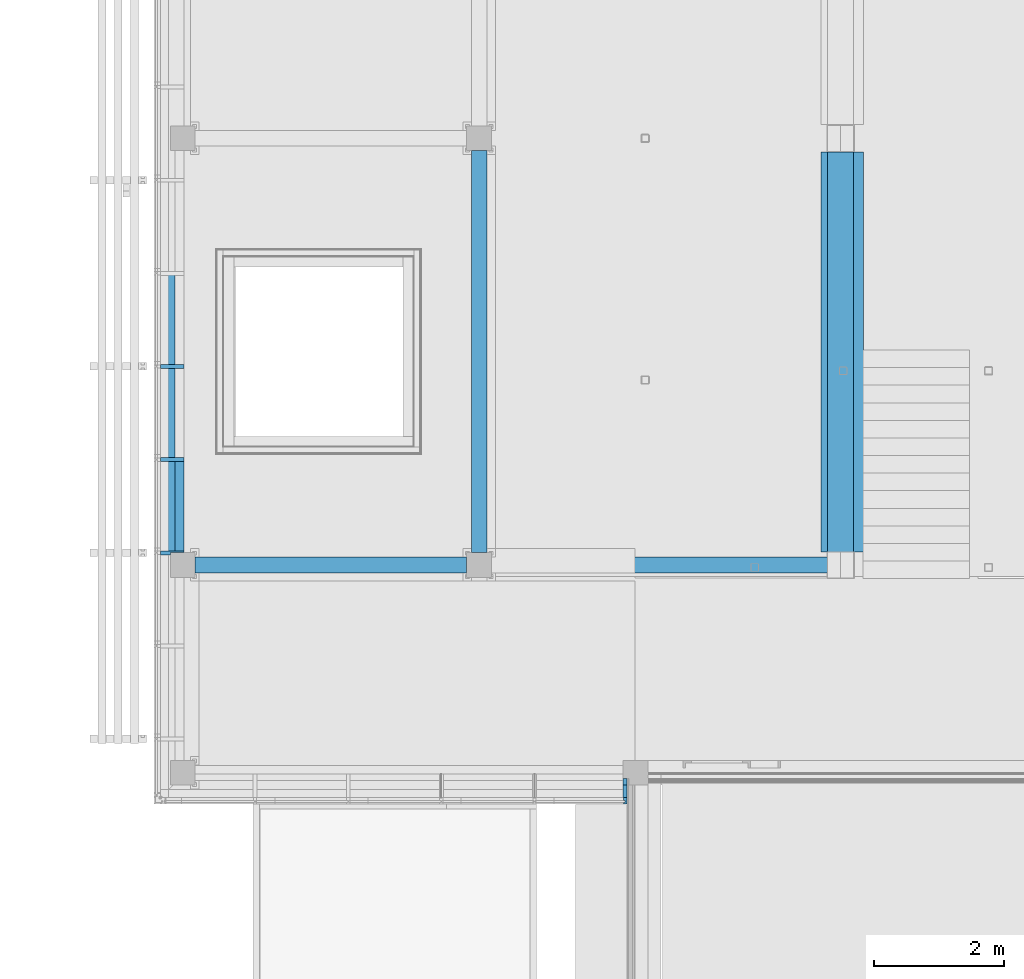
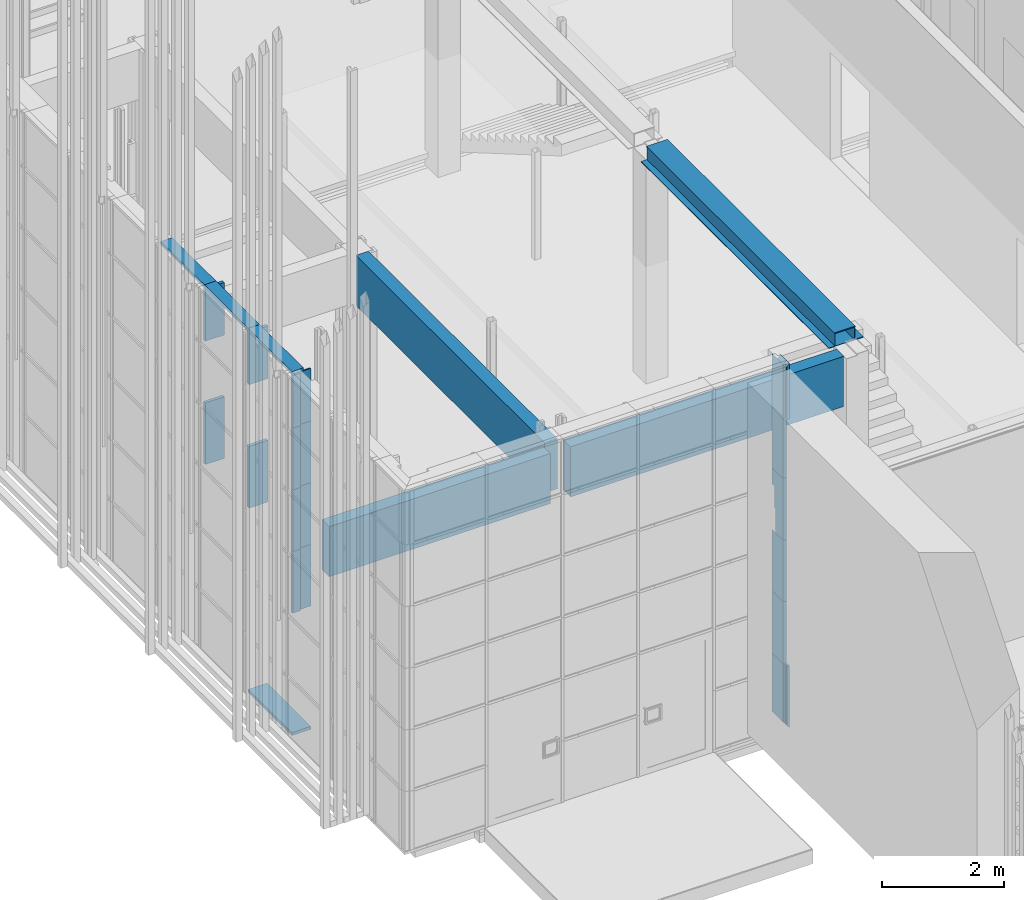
# One storey, part 70 of 260: 20 members, 4 beams, 2 elements without a shape of their own.
"""IFC2X3 building model written with IfcOpenShell, lengths in millimetres."""

from ifc_helpers import new_model, entity, si_unit, converted_unit, derived_unit, money_unit, direction, frame, origin_with_axes, place, context, subcontext, project, spatial, faceted_brep, material, type_object, element, aggregate, save


model = new_model("IFC2X3")

# Units and contexts
model_context = context("Model", 3, precision=0.01, world=origin_with_axes(), true_north=direction((0.0, 1.0)))
body_context = subcontext(model_context, "Body", "Model", "MODEL_VIEW")
ifc_project = project(units=[si_unit("LENGTHUNIT", "METRE", prefix="MILLI"), si_unit("AREAUNIT", "SQUARE_METRE"), si_unit("VOLUMEUNIT", "CUBIC_METRE"), converted_unit("PLANEANGLEUNIT", "DEGREE", entity("IfcPlaneAngleMeasure", 0.0174532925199), si_unit("PLANEANGLEUNIT", "RADIAN"), dimensions=[0, 0, 0, 0, 0, 0, 0]), money_unit("EUR"), converted_unit("TIMEUNIT", "Year", entity("IfcTimeMeasure", 31556926.0), si_unit("TIMEUNIT", "SECOND"), dimensions=[0, 0, 1, 0, 0, 0, 0]), si_unit("MASSUNIT", "GRAM", prefix="KILO"), si_unit("THERMODYNAMICTEMPERATUREUNIT", "DEGREE_CELSIUS"), si_unit("LUMINOUSINTENSITYUNIT", "LUMEN"), si_unit("ENERGYUNIT", "JOULE", prefix="MEGA"), derived_unit("THERMALCONDUCTANCEUNIT", [(si_unit("POWERUNIT", "WATT"), 1), (si_unit("LENGTHUNIT", "METRE"), -1), (si_unit("THERMODYNAMICTEMPERATUREUNIT", "KELVIN"), -1)]), derived_unit("SPECIFICHEATCAPACITYUNIT", [(si_unit("ENERGYUNIT", "JOULE"), 1), (si_unit("MASSUNIT", "GRAM", prefix="KILO"), -1), (si_unit("THERMODYNAMICTEMPERATUREUNIT", "KELVIN"), -1)]), derived_unit("MASSDENSITYUNIT", [(si_unit("MASSUNIT", "GRAM", prefix="KILO"), 1), (si_unit("VOLUMEUNIT", "CUBIC_METRE"), -1)])], contexts=[model_context])

# Site, building, storey
site_placement = place(None, origin_with_axes())
site = spatial("IfcSite", under=ifc_project, at=site_placement, Name="Kolde pst 67a", CompositionType="ELEMENT")
building_placement = place(site_placement, origin_with_axes())
building = spatial("IfcBuilding", under=site, at=building_placement, Name="Riigigümnaasium", CompositionType="ELEMENT")
storey_placement = place(building_placement, origin_with_axes())
storey = spatial("IfcBuildingStorey", under=building, at=storey_placement, Name="1. korrus", CompositionType="ELEMENT", Elevation=0.0)

# Curtain wall, members
curtain_wall_type = type_object("IfcCurtainWallType", Name="Curtain Wall Type", PredefinedType="NOTDEFINED")
curtain_wall_1_placement = place(storey_placement, frame((47829.9854655, 8727.77020058, -0.000749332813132), z_axis=(0.0, 0.0, 1.0), x_axis=(1.0, 0.0, 0.0)))
curtain_wall_1 = element("IfcCurtainWall", 1, at=curtain_wall_1_placement, inside=storey, type_object=curtain_wall_type, Name="KLAASFASSAAD")
ifc_material_1 = material(Name="_METALL - alumiinium")
member_type_1 = type_object("IfcMemberType", Name="Boundary Frame 50 x 100", PredefinedType="MEMBER")
member_1_placement = place(curtain_wall_1_placement, frame((7219.88143544, -1457.7720558, 1230.00074933), z_axis=(0.0, 0.0, -1.0), x_axis=(-1.0, 2.70881141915e-07, 0.0)))
member_1 = element("IfcMember", 2, at=member_1_placement, type_object=member_type_1, material=ifc_material_1, Name="RF RAAM SERV-552", ObjectType="MEMBER", context=body_context, shape_type="Brep", body=[
    faceted_brep([(30.0000044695, 16.4999918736, 1200.00002976), (50.0000044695, 16.4999864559, 1180.00002976), (50.0000162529, 59.9999864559, 1180.00002976), (1.62528692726e-05, 60.0, 1230.00002976), (-1.08352509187e-05, -40.0, 1230.00002976), (49.9999891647, -40.0000135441, 1180.00002976), (49.9999955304, -16.5000135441, 1180.00002976), (29.9999955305, -16.5000081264, 1200.00002976), (30.0000044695, 16.4999918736, 0.0), (50.0000044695, 16.4999864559, 0.0), (50.0000162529, 59.9999864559, 0.0), (1.62528692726e-05, 60.0, 0.0), (-1.08352509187e-05, -40.0, 0.0), (49.9999891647, -40.0000135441, 0.0), (49.9999955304, -16.5000135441, 0.0), (29.9999955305, -16.5000081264, 0.0)], [[[0, 1, 2, 3, 4, 5, 6, 7]], [[0, 8, 9, 1]], [[9, 10, 2, 1]], [[10, 11, 3, 2]], [[11, 12, 4, 3]], [[12, 13, 5, 4]], [[6, 5, 13, 14]], [[14, 15, 7, 6]], [[7, 15, 8, 0]], [[8, 15, 14, 13, 12, 11, 10, 9]]]),
])
member_2_placement = place(curtain_wall_1_placement, frame((7219.88154525, -1457.7720558, 7259.99961897), z_axis=(-9.89276855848e-08, 0.0, -1.0), x_axis=(-1.0, 2.70881141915e-07, 9.89276855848e-08)))
member_2 = element("IfcMember", 3, at=member_2_placement, type_object=member_type_1, material=ifc_material_1, Name="RF RAAM SERV-547", ObjectType="MEMBER", context=body_context, shape_type="Brep", body=[
    faceted_brep([(29.9998946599, 16.4999918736, 1109.99887508), (49.9998946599, 16.4999864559, 1109.99887706), (49.9999064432, 59.9999864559, 1109.99887706), (-9.35567499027e-05, 60.0, 1109.99887212), (-0.000120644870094, -40.0, 1109.99887212), (49.9998793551, -40.0000135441, 1109.99887706), (49.9998857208, -16.5000135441, 1109.99887706), (29.9998857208, -16.5000081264, 1109.99887508), (30.0000015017, 16.4999918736, 30.0000029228), (49.9999995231, 16.4999864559, 50.0000048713), (50.0000113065, 59.9999864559, 50.0000048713), (1.62528692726e-05, 60.0, 0.0), (-1.08352509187e-05, -40.0, 0.0), (49.9999842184, -40.0000135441, 50.0000048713), (49.9999905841, -16.5000135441, 50.0000048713), (29.9999925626, -16.5000081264, 30.0000029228)], [[[0, 1, 2, 3, 4, 5, 6, 7]], [[0, 8, 9, 1]], [[9, 10, 2, 1]], [[2, 10, 11, 3]], [[3, 11, 12, 4]], [[4, 12, 13, 5]], [[6, 5, 13, 14]], [[14, 15, 7, 6]], [[7, 15, 8, 0]], [[8, 15, 14, 13, 12, 11, 10, 9]]]),
])
aggregate(curtain_wall_1, [member_1, member_2])

curtain_wall_2_placement = place(storey_placement, frame((47889.9854796, 7778.28071079, -0.000681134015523), z_axis=(0.0, 0.0, 1.0), x_axis=(1.0, 0.0, 0.0)))
curtain_wall_2 = element("IfcCurtainWall", 4, at=curtain_wall_2_placement, inside=storey, type_object=curtain_wall_type, Name="Klaasfassaadi puitkarkass")
ifc_material_2 = material(Name="_KANDETARIND - liimpuit vastavalt EK osale")
member_type_2 = type_object("IfcMemberType", Name="Boundary Frame 60 x 360", PredefinedType="MEMBER")
member_3_placement = place(curtain_wall_2_placement, frame((-3.55545637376e-06, 3308.28063511, 0.0), z_axis=(-1.07471824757e-09, 1.0, 0.0), x_axis=(0.0, 0.0, 1.0)))
member_3 = element("IfcMember", 5, at=member_3_placement, type_object=member_type_2, material=ifc_material_2, Name="RF RAAM SERV-883", ObjectType="MEMBER", context=body_context, shape_type="Brep", body=[
    faceted_brep([(60.0, 150.000041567, -1.61207935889e-07), (60.0, 150.00004157, 3.40062752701), (60.0, 360.000000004, 3.40062730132), (60.0, 360.000001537, 1429.99999961), (60.0, 1.53684709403e-06, 1430.0), (60.0, 0.0, 0.0), (0.000681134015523, 150.000041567, -1.61207935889e-07), (0.000681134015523, 150.00004157, 3.40062752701), (0.000681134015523, 360.000000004, 3.40062730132), (0.0, 360.000001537, 1429.99999961), (0.0, 1.53684709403e-06, 1430.0), (0.0, 0.0, 0.0)], [[[0, 1, 2, 3, 4, 5]], [[1, 0, 6, 7]], [[8, 2, 1, 7]], [[2, 8, 9, 3]], [[4, 3, 9, 10]], [[11, 5, 4, 10]], [[6, 0, 5, 11]], [[7, 6, 11, 10, 9, 8]]]),
])
member_4_placement = place(curtain_wall_2_placement, frame((7159.88154568, -448.282510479, 1230.00068113), z_axis=(0.0, 0.0, -1.0), x_axis=(-1.0, 2.61927579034e-07, 0.0)))
member_4 = element("IfcMember", 6, at=member_4_placement, type_object=member_type_2, material=ifc_material_2, Name="RF RAAM SERV-879", ObjectType="MEMBER", context=body_context, shape_type="Brep", body=[
    faceted_brep([(4.97667116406e-05, 190.001799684, 1230.0), (4.97667116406e-05, 190.001799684, 0.0), (0.0, 0.0, 0.0), (0.0, 0.0, 1230.00012887), (59.8868039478, 190.001783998, 0.0), (59.8868039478, 190.001783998, 1170.11337448), (59.886848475, 359.999984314, 0.0), (60.0000942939, 359.999984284, 0.0), (60.0, -1.57156545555e-05, 0.0), (60.0, -1.57156545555e-05, 1170.00012866), (60.0000942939, 359.999984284, 1170.00012866), (59.886848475, 359.999984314, 1170.11337448)], [[[0, 1, 2, 3]], [[4, 1, 0, 5]], [[4, 6, 7, 8, 2, 1]], [[2, 8, 9, 3]], [[5, 0, 3, 9, 10, 11]], [[11, 6, 4, 5]], [[6, 11, 10, 7]], [[8, 7, 10, 9]]]),
])
member_5_placement = place(curtain_wall_2_placement, frame((7159.88154568, -448.282510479, 2460.00068113), z_axis=(0.0, 0.0, -1.0), x_axis=(-1.0, 2.61927579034e-07, 0.0)))
member_5 = element("IfcMember", 7, at=member_5_placement, type_object=member_type_2, material=ifc_material_2, Name="RF RAAM SERV-878", ObjectType="MEMBER", context=body_context, shape_type="Brep", body=[
    faceted_brep([(4.97667116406e-05, 190.001799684, 1230.0), (4.97667116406e-05, 190.001799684, 0.0), (0.0, 0.0, 0.0), (0.0, 0.0, 1230.0), (59.8868039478, 190.001783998, 0.0), (59.8868039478, 190.001783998, 1230.0), (59.886848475, 359.999984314, 0.0), (60.0000942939, 359.999984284, 0.0), (60.0, -1.57156545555e-05, 0.0), (60.0, -1.57156545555e-05, 1230.0), (60.0000942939, 359.999984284, 1230.0), (59.886848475, 359.999984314, 1230.0)], [[[0, 1, 2, 3]], [[4, 1, 0, 5]], [[4, 6, 7, 8, 2, 1]], [[2, 8, 9, 3]], [[5, 0, 3, 9, 10, 11]], [[11, 6, 4, 5]], [[6, 11, 10, 7]], [[8, 7, 10, 9]]]),
])
member_6_placement = place(curtain_wall_2_placement, frame((7159.88154568, -448.282510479, 3690.00068113), z_axis=(0.0, 0.0, -1.0), x_axis=(-1.0, 2.61927579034e-07, 0.0)))
member_6 = element("IfcMember", 8, at=member_6_placement, type_object=member_type_2, material=ifc_material_2, Name="RF RAAM SERV-877", ObjectType="MEMBER", context=body_context, shape_type="Brep", body=[
    faceted_brep([(4.97667116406e-05, 190.001799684, 1230.0), (4.97667116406e-05, 190.001799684, 0.0), (0.0, 0.0, 0.0), (0.0, 0.0, 1230.0), (59.8868039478, 190.001783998, 0.0), (59.8868039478, 190.001783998, 1230.0), (59.886848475, 359.999984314, 0.0), (60.0000942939, 359.999984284, 0.0), (60.0, -1.57156545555e-05, 0.0), (60.0, -1.57156545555e-05, 1230.0), (60.0000942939, 359.999984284, 1230.0), (59.886848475, 359.999984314, 1230.0)], [[[0, 1, 2, 3]], [[4, 1, 0, 5]], [[4, 6, 7, 8, 2, 1]], [[3, 2, 8, 9]], [[5, 0, 3, 9, 10, 11]], [[11, 6, 4, 5]], [[6, 11, 10, 7]], [[9, 8, 7, 10]]]),
])
member_7_placement = place(curtain_wall_2_placement, frame((7159.88154568, -448.282510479, 4920.00068113), z_axis=(0.0, 0.0, -1.0), x_axis=(-1.0, 2.61927579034e-07, 0.0)))
member_7 = element("IfcMember", 9, at=member_7_placement, type_object=member_type_2, material=ifc_material_2, Name="RF RAAM SERV-876", ObjectType="MEMBER", context=body_context, shape_type="Brep", body=[
    faceted_brep([(4.97667116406e-05, 190.001799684, 1230.0), (4.97667116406e-05, 190.001799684, 700.0), (7.59979386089e-05, 290.148686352, 700.0), (7.59979386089e-05, 290.148686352, 470.0), (4.97667116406e-05, 190.001799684, 470.0), (4.97667116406e-05, 190.001799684, 0.0), (0.0, 0.0, 0.0), (0.0, 0.0, 1230.0), (59.8868039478, 190.001783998, 1230.0), (59.8868039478, 190.001783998, 700.0), (59.8868301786, 290.147253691, 700.0), (59.8868301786, 290.147253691, 750.0), (60.0000759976, 290.147250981, 750.0), (60.0000759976, 290.147250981, 470.0), (59.8868301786, 290.147253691, 470.0), (59.8868039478, 190.001783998, 470.0), (59.8868039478, 190.001783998, 0.0), (59.886848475, 359.999984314, 0.0), (60.0000942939, 359.999984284, 0.0), (60.0, -1.57156545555e-05, 0.0), (60.0, -1.57156545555e-05, 1230.0), (60.0000654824, 250.001783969, 1230.0), (59.8868196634, 250.001783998, 1230.0), (59.8868196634, 250.001783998, 750.0), (60.0000654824, 250.001783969, 750.0), (60.0000942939, 359.999984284, 320.0), (60.0000759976, 290.147250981, 320.0), (60.0000759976, 290.147250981, 323.0), (60.0000759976, 290.147250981, 420.0), (60.0000759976, 290.147250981, 450.0), (59.8868301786, 290.147253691, 450.0), (59.8868301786, 290.147253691, 320.0), (59.886848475, 359.999984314, 320.0), (59.8868301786, 290.147253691, 420.0), (59.8868301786, 290.147253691, 323.0)], [[[0, 1, 2, 3, 4, 5, 6, 7]], [[1, 0, 8, 9]], [[10, 2, 1, 9]], [[10, 11, 12, 13, 14, 3, 2]], [[15, 4, 3, 14]], [[15, 16, 5, 4]], [[5, 16, 17, 18, 19, 6]], [[6, 19, 20, 7]], [[8, 0, 7, 20, 21, 22]], [[11, 10, 9, 8, 22, 23]], [[11, 23, 24, 12]], [[13, 12, 24, 21, 20, 19, 18, 25, 26, 27, 28, 29]], [[29, 30, 14, 13]], [[31, 32, 17, 16, 15, 14, 30, 33, 34]], [[18, 17, 32, 25]], [[23, 22, 21, 24]], [[25, 32, 31, 26]], [[26, 31, 34, 27]], [[27, 34, 33, 28]], [[28, 33, 30, 29]]]),
])
member_8_placement = place(curtain_wall_2_placement, frame((7159.88154568, -448.282510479, 6150.00068113), z_axis=(0.0, 0.0, -1.0), x_axis=(-1.0, 2.61927579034e-07, 0.0)))
member_8 = element("IfcMember", 10, at=member_8_placement, type_object=member_type_2, material=ifc_material_2, Name="RF RAAM SERV-875", ObjectType="MEMBER", context=body_context, shape_type="Brep", body=[
    faceted_brep([(4.97667116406e-05, 190.001799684, 1230.0), (4.97667116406e-05, 190.001799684, 0.0), (0.0, 0.0, 0.0), (0.0, 0.0, 1230.0), (59.8868039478, 190.001783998, 0.0), (59.8868039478, 190.001783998, 1230.0), (59.886848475, 359.999984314, 0.0), (60.0000942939, 359.999984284, 0.0), (60.0, -1.57156545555e-05, 0.0), (60.0, -1.57156545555e-05, 1230.0), (60.0000942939, 359.999984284, 1230.0), (59.886848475, 359.999984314, 1230.0)], [[[0, 1, 2, 3]], [[4, 1, 0, 5]], [[4, 6, 7, 8, 2, 1]], [[2, 8, 9, 3]], [[5, 0, 3, 9, 10, 11]], [[11, 6, 4, 5]], [[6, 11, 10, 7]], [[8, 7, 10, 9]]]),
])
member_9_placement = place(curtain_wall_2_placement, frame((7159.88157566, -448.282510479, 7259.99957922), z_axis=(-2.7009919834e-08, 0.0, -1.0), x_axis=(-1.0, 2.61927579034e-07, 2.7009919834e-08)))
member_9 = element("IfcMember", 11, at=member_9_placement, type_object=member_type_2, material=ifc_material_2, Name="RF RAAM SERV-874", ObjectType="MEMBER", context=body_context, shape_type="Brep", body=[
    faceted_brep([(1.97857090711e-05, 190.001799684, 1109.99957681), (4.97667116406e-05, 190.001799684, 0.0), (0.0, 0.0, 0.0), (-2.99810025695e-05, 0.0, 1109.99957681), (59.8868323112, 190.001783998, 59.8867850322), (59.8868039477, 190.001783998, 1109.99957842), (59.886850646, 260.001783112, 59.8916836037), (60.0000664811, 260.001783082, 59.9988997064), (59.9999983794, -1.57156545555e-05, 60.0000008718), (59.999970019, -1.57156545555e-05, 1109.99957843), (60.0000643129, 359.999984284, 1109.99957843), (59.8868484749, 359.999984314, 1109.99957842), (59.8868768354, 359.999984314, 59.9988997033), (59.8868506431, 260.001783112, 59.9988997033), (60.0000926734, 359.999984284, 59.9988997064)], [[[0, 1, 2, 3]], [[4, 1, 0, 5]], [[4, 6, 7, 8, 2, 1]], [[9, 3, 2, 8]], [[5, 0, 3, 9, 10, 11]], [[11, 12, 13, 6, 4, 5]], [[6, 13, 7]], [[8, 7, 14, 10, 9]], [[12, 11, 10, 14]], [[13, 12, 14, 7]]]),
])
member_10_placement = place(curtain_wall_2_placement, frame((-5.09230346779e-06, 4738.28063511, 7260.00002512), z_axis=(1.07471824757e-09, -1.0, 0.0), x_axis=(0.0, 0.0, -1.0)))
member_10 = element("IfcMember", 12, at=member_10_placement, type_object=member_type_2, material=ifc_material_2, Name="RF RAAM SERV-906", ObjectType="MEMBER", context=body_context, shape_type="Brep", body=[
    faceted_brep([(0.0, 150.000023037, 1430.00000016), (0.0, 150.000023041, 1426.59937247), (0.0, 219.999954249, 1426.59937255), (0.0, 219.999951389, 2.36438424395e-07), (0.0, 0.0, 0.0), (0.0, -1.53684709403e-06, 1430.0), (60.0, 150.000023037, 1430.00000016), (59.9993439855, 150.000023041, 1426.59937247), (59.9993439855, 219.999954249, 1426.59937255), (59.9993439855, 219.999951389, 2.36438424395e-07), (60.0, 0.0, 0.0), (60.0, -1.53684709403e-06, 1430.0)], [[[0, 1, 2, 3, 4, 5]], [[1, 0, 6, 7]], [[8, 2, 1, 7]], [[2, 8, 9, 3]], [[4, 3, 9, 10]], [[5, 4, 10, 11]], [[6, 0, 5, 11]], [[7, 6, 11, 10, 9, 8]]]),
])
member_11_placement = place(curtain_wall_2_placement, frame((-6.62914345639e-06, 6168.28063511, 7260.00002512), z_axis=(1.07471327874e-09, -1.0, 0.0), x_axis=(0.0, 0.0, -1.0)))
member_11 = element("IfcMember", 13, at=member_11_placement, type_object=member_type_2, material=ifc_material_2, Name="RF RAAM SERV-905", ObjectType="MEMBER", context=body_context, shape_type="Brep", body=[
    faceted_brep([(0.0, 219.999951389, 1430.00000024), (0.0, 219.999948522, 2.36436648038e-07), (0.0, 0.0, 0.0), (0.0, -1.5368399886e-06, 1430.0), (59.9993439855, 219.999948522, 2.36436648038e-07), (59.9993439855, 219.999951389, 1430.00000024), (60.0, 0.0, 0.0), (60.0, -1.5368399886e-06, 1430.0)], [[[0, 1, 2, 3]], [[4, 1, 0, 5]], [[1, 4, 6, 2]], [[2, 6, 7, 3]], [[5, 0, 3, 7]], [[4, 5, 7, 6]]]),
])
member_12_placement = place(curtain_wall_2_placement, frame((-8.165983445e-06, 7598.28063511, 7260.00002512), z_axis=(1.07471327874e-09, -1.0, 0.0), x_axis=(0.0, 0.0, -1.0)))
member_12 = element("IfcMember", 14, at=member_12_placement, type_object=member_type_2, material=ifc_material_2, Name="RF RAAM SERV-904", ObjectType="MEMBER", context=body_context, shape_type="Brep", body=[
    faceted_brep([(0.0, 219.999948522, 1430.00000024), (0.0, 219.999945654, 2.36436648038e-07), (0.0, 0.0, 0.0), (0.0, -1.5368399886e-06, 1430.0), (59.9993439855, 219.999945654, 2.36436648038e-07), (59.9993439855, 219.999948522, 1430.00000024), (60.0, 0.0, 0.0), (60.0, -1.5368399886e-06, 1430.0)], [[[0, 1, 2, 3]], [[4, 1, 0, 5]], [[1, 4, 6, 2]], [[2, 6, 7, 3]], [[5, 0, 3, 7]], [[4, 5, 7, 6]]]),
])
member_type_3 = type_object("IfcMemberType", Name="Mullion Frame 60 x 360", PredefinedType="MEMBER")
member_13_placement = place(curtain_wall_2_placement, frame((-3.55545637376e-06, 3308.28063511, 2460.00068113), z_axis=(0.0, 0.0, 1.0), x_axis=(1.07471576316e-09, -1.0, 0.0)))
member_13 = element("IfcMember", 15, at=member_13_placement, type_object=member_type_3, material=ifc_material_2, Name="RF RAAM VERT-457", ObjectType="MEMBER", context=body_context, shape_type="Brep", body=[
    faceted_brep([(30.0, 150.000041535, 1230.0), (-3.40062752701, 150.00004157, 1230.0), (-3.40062730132, 360.0, 1230.0), (-30.0, 360.0, 1230.0), (-30.0, 0.0, 1230.0), (30.0, 0.0, 1230.0), (30.0, 150.000041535, 0.0), (-3.40062752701, 150.00004157, 0.0), (-3.40062730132, 360.0, 0.0), (-30.0, 360.0, 0.0), (-30.0, 0.0, 0.0), (30.0, 0.0, 0.0)], [[[0, 1, 2, 3, 4, 5]], [[1, 0, 6, 7]], [[8, 2, 1, 7]], [[2, 8, 9, 3]], [[9, 10, 4, 3]], [[10, 11, 5, 4]], [[6, 0, 5, 11]], [[7, 6, 11, 10, 9, 8]]]),
])
member_14_placement = place(curtain_wall_2_placement, frame((-3.55545637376e-06, 3308.28063511, 3690.00068113), z_axis=(0.0, 0.0, 1.0), x_axis=(1.07471576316e-09, -1.0, 0.0)))
member_14 = element("IfcMember", 16, at=member_14_placement, type_object=member_type_3, material=ifc_material_2, Name="RF RAAM VERT-457", ObjectType="MEMBER", context=body_context, shape_type="Brep", body=[
    faceted_brep([(30.0, 150.000023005, 1230.0), (-3.40062752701, 150.000023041, 1230.0), (-3.40062730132, 360.0, 1230.0), (-30.0, 360.0, 1230.0), (-30.0, 0.0, 1230.0), (30.0, 0.0, 1230.0), (30.0, 150.000023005, 480.0), (30.0, 150.000041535, 0.0), (-3.40062752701, 150.00004157, 0.0), (-3.40062730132, 360.0, 480.0), (-3.40062730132, 360.0, 0.0), (-30.0, 360.0, 0.0), (-30.0, 0.0, 0.0), (30.0, 0.0, 0.0)], [[[0, 1, 2, 3, 4, 5]], [[1, 0, 6, 7, 8]], [[9, 2, 1, 8, 10]], [[2, 9, 10, 11, 3]], [[4, 3, 11, 12]], [[5, 4, 12, 13]], [[6, 0, 5, 13, 7]], [[10, 8, 7, 13, 12, 11]]]),
])
member_15_placement = place(curtain_wall_2_placement, frame((-3.55545637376e-06, 3308.28063511, 4920.00068113), z_axis=(0.0, 0.0, 1.0), x_axis=(1.07471576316e-09, -1.0, 0.0)))
member_15 = element("IfcMember", 17, at=member_15_placement, type_object=member_type_3, material=ifc_material_2, Name="RF RAAM VERT-457", ObjectType="MEMBER", context=body_context, shape_type="Brep", body=[
    faceted_brep([(30.0, 150.000023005, 1230.0), (-3.40062752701, 150.000023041, 1230.0), (-3.40062730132, 360.0, 1230.0), (-30.0, 360.0, 1230.0), (-30.0, 0.0, 1230.0), (30.0, 0.0, 1230.0), (30.0, 150.000023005, 0.0), (-3.40062752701, 150.000023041, 0.0), (-3.40062730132, 360.0, 0.0), (-30.0, 360.0, 0.0), (-30.0, 0.0, 0.0), (30.0, 0.0, 0.0)], [[[0, 1, 2, 3, 4, 5]], [[1, 0, 6, 7]], [[8, 2, 1, 7]], [[2, 8, 9, 3]], [[9, 10, 4, 3]], [[10, 11, 5, 4]], [[6, 0, 5, 11]], [[7, 6, 11, 10, 9, 8]]]),
])
member_16_placement = place(curtain_wall_2_placement, frame((-5.09230346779e-06, 4738.28063511, 3690.00068113), z_axis=(0.0, 0.0, 1.0), x_axis=(1.07471576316e-09, -1.0, 0.0)))
member_16 = element("IfcMember", 18, at=member_16_placement, type_object=member_type_3, material=ifc_material_2, Name="RF RAAM VERT-457", ObjectType="MEMBER", context=body_context, shape_type="Brep", body=[
    faceted_brep([(30.0, 0.0, 0.0), (30.0, 360.0, 0.0), (30.0, 360.0, 1230.0), (30.0, 0.0, 1230.0), (-30.0, 360.0, 0.0), (-30.0, 0.0, 0.0), (-30.0, 360.0, 1230.0), (-30.0, 0.0, 1230.0)], [[[0, 1, 2, 3]], [[4, 1, 0, 5]], [[1, 4, 6, 2]], [[3, 2, 6, 7]], [[5, 0, 3, 7]], [[4, 5, 7, 6]]]),
])
member_17_placement = place(curtain_wall_2_placement, frame((-6.62914345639e-06, 6168.28063511, 3690.00068113), z_axis=(0.0, 0.0, 1.0), x_axis=(1.07471327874e-09, -1.0, 0.0)))
member_17 = element("IfcMember", 19, at=member_17_placement, type_object=member_type_3, material=ifc_material_2, Name="RF RAAM VERT-457", ObjectType="MEMBER", context=body_context, shape_type="Brep", body=[
    faceted_brep([(30.0, 0.0, 0.0), (30.0, 360.0, 0.0), (30.0, 360.0, 1230.0), (30.0, 0.0, 1230.0), (-30.0, 360.0, 0.0), (-30.0, 0.0, 0.0), (-30.0, 360.0, 1230.0), (-30.0, 0.0, 1230.0)], [[[0, 1, 2, 3]], [[4, 1, 0, 5]], [[1, 4, 6, 2]], [[3, 2, 6, 7]], [[5, 0, 3, 7]], [[4, 5, 7, 6]]]),
])
member_18_placement = place(curtain_wall_2_placement, frame((-3.55545637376e-06, 3308.28063511, 6150.00068113), z_axis=(0.0, 0.0, 1.0), x_axis=(1.07471576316e-09, -1.0, 0.0)))
member_18 = element("IfcMember", 20, at=member_18_placement, type_object=member_type_3, material=ifc_material_2, Name="RF RAAM VERT-874", ObjectType="MEMBER", context=body_context, shape_type="Brep", body=[
    faceted_brep([(30.0, 150.000023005, 1049.99958618), (-3.40062752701, 150.000023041, 1049.99958618), (-3.40062730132, 360.0, 1049.99958427), (-30.0, 360.0, 1049.99958427), (-30.0, 0.0, 1049.99958755), (30.0, 0.0, 1049.99958755), (30.0, 150.000023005, 0.0), (-3.40062752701, 150.000023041, 0.0), (-3.40062730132, 360.0, 0.0), (-30.0, 360.0, 0.0), (-30.0, 0.0, 0.0), (30.0, 0.0, 0.0)], [[[0, 1, 2, 3, 4, 5]], [[1, 0, 6, 7]], [[8, 2, 1, 7]], [[2, 8, 9, 3]], [[3, 9, 10, 4]], [[4, 10, 11, 5]], [[6, 0, 5, 11]], [[7, 6, 11, 10, 9, 8]]]),
])
member_19_placement = place(curtain_wall_2_placement, frame((-5.09230346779e-06, 4738.28063511, 6150.00068113), z_axis=(0.0, 0.0, 1.0), x_axis=(1.07471576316e-09, -1.0, 0.0)))
member_19 = element("IfcMember", 21, at=member_19_placement, type_object=member_type_3, material=ifc_material_2, Name="RF RAAM VERT-875", ObjectType="MEMBER", context=body_context, shape_type="Brep", body=[
    faceted_brep([(30.0, 0.0, 0.0), (30.0, 360.0, 0.0), (30.0, 360.0, 1049.99958427), (30.0, 0.0, 1049.99958755), (-30.0, 360.0, 0.0), (-30.0, 0.0, 0.0), (-30.0, 360.0, 1049.99958427), (-30.0, 0.0, 1049.99958755)], [[[0, 1, 2, 3]], [[4, 1, 0, 5]], [[1, 4, 6, 2]], [[3, 2, 6, 7]], [[5, 0, 3, 7]], [[4, 5, 7, 6]]]),
])
member_20_placement = place(curtain_wall_2_placement, frame((-6.62914345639e-06, 6168.28063511, 6150.00068113), z_axis=(0.0, 0.0, 1.0), x_axis=(1.07471327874e-09, -1.0, 0.0)))
member_20 = element("IfcMember", 22, at=member_20_placement, type_object=member_type_3, material=ifc_material_2, Name="RF RAAM VERT-876", ObjectType="MEMBER", context=body_context, shape_type="Brep", body=[
    faceted_brep([(30.0, 0.0, 0.0), (30.0, 360.0, 0.0), (30.0, 360.0, 1049.99958427), (30.0, 0.0, 1049.99958755), (-30.0, 360.0, 0.0), (-30.0, 0.0, 0.0), (-30.0, 360.0, 1049.99958427), (-30.0, 0.0, 1049.99958755)], [[[0, 1, 2, 3]], [[4, 1, 0, 5]], [[1, 4, 6, 2]], [[3, 2, 6, 7]], [[5, 0, 3, 7]], [[4, 5, 7, 6]]]),
])
aggregate(curtain_wall_2, [member_13, member_14, member_15, member_16, member_17, member_3, member_4, member_5, member_6, member_7, member_8, member_9, member_18, member_10, member_19, member_11, member_20, member_12])

# Beams
beam_type_1 = type_object("IfcBeamType", Name="_KANDETARIND - liimpuit vastavalt EK osale 240 x 1000", PredefinedType="BEAM")
beam_1_placement = place(storey_placement, frame((52779.9941032, 17259.9999742, 3670.0), z_axis=(0.0, 0.0, 1.0), x_axis=(-1.0, -3.07976113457e-09, 0.0)))
element("IfcBeam", 23, at=beam_1_placement, inside=storey, type_object=beam_type_1, material=ifc_material_2, Name="Tala", ObjectType="BEAM", context=body_context, shape_type="Brep", body=[
    faceted_brep([(120.0, 0.0, 500.0), (120.0, 6170.03803351, 500.0), (-120.0, 6170.03803351, 500.0), (-120.0, 0.0, 500.0), (120.0, 0.0, -500.0), (120.0, 6170.03803351, -500.0), (-120.0, 6170.03803351, -500.0), (-120.0, 0.0, -500.0)], [[[0, 1, 2, 3]], [[4, 5, 1, 0]], [[2, 1, 5, 6]], [[3, 2, 6, 7]], [[4, 0, 3, 7]], [[7, 6, 5, 4]]]),
])
beam_2_placement = place(storey_placement, frame((52589.9940783, 10899.9619406, 3670.0), z_axis=(0.0, 0.0, 1.0), x_axis=(7.90415101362e-09, 1.0, 0.0)))
element("IfcBeam", 24, at=beam_2_placement, inside=storey, type_object=beam_type_1, material=ifc_material_2, Name="Tala", ObjectType="BEAM", context=body_context, shape_type="Brep", body=[
    faceted_brep([(120.0, 0.0, 500.0), (120.0, 4170.00857924, 500.0), (-120.0, 4170.00857924, 500.0), (-120.0, 0.0, 500.0), (120.0, 0.0, -500.0), (120.0, 4170.00857924, -500.0), (-120.0, 4170.00857924, -500.0), (-120.0, 0.0, -500.0)], [[[0, 1, 2, 3]], [[4, 5, 1, 0]], [[2, 1, 5, 6]], [[3, 2, 6, 7]], [[4, 0, 3, 7]], [[7, 6, 5, 4]]]),
])
beam_3_placement = place(storey_placement, frame((52969.9941222, 10899.9619407, 3670.0), z_axis=(0.0, 0.0, 1.0), x_axis=(0.0, -1.0, 0.0)))
element("IfcBeam", 25, at=beam_3_placement, inside=storey, type_object=beam_type_1, material=ifc_material_2, Name="Tala", ObjectType="BEAM", context=body_context, shape_type="Brep", body=[
    faceted_brep([(120.0, 0.0, 500.0), (120.0, 5159.95477338, 500.0), (-120.0, 5159.95477338, 500.0), (-120.0, 0.0, 500.0), (120.0, 0.0, -500.0), (120.0, 5159.95477338, -500.0), (-120.0, 5159.95477338, -500.0), (-120.0, 0.0, -500.0)], [[[0, 1, 2, 3]], [[4, 5, 1, 0]], [[2, 1, 5, 6]], [[3, 2, 6, 7]], [[4, 0, 3, 7]], [[7, 6, 5, 4]]]),
])
beam_type_2 = type_object("IfcBeamType", Name="Garderoobi tala 650 x 280", PredefinedType="BEAM")
beam_4_placement = place(storey_placement, frame((58329.9488482, 11100.0002918, 4440.0), z_axis=(0.0, 0.0, 1.0), x_axis=(1.0, 0.0, 0.0)))
element("IfcBeam", 26, at=beam_4_placement, inside=storey, type_object=beam_type_2, material=ifc_material_1, Name="Tala", ObjectType="BEAM", context=body_context, shape_type="Brep", body=[
    faceted_brep([(189.999981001, 6139.99968244, -19.9999307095), (189.999981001, 6139.99968244, -264.999994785), (349.999978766, 6139.99968244, -264.999994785), (349.999978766, 6139.99968244, -279.99999851), (-300.000021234, 6139.99968244, -279.99999851), (-300.000021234, 6139.99968244, -264.999994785), (-190.000019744, 6139.99968244, -264.999994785), (-190.000019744, 6139.99968244, -19.9999307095), (-200.000018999, 6139.99968244, -19.9999307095), (-200.000018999, 6139.99968244, 0.0), (200.000018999, 6139.99968244, 0.0), (200.000018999, 6139.99968244, -19.9999307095), (181.999975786, 6139.99968244, -19.9999307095), (-182.000024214, 6139.99968244, -19.9999307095), (-182.000024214, 6139.99968244, -264.999994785), (181.999975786, 6139.99968244, -264.999994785), (189.999981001, 0.0, -19.9999307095), (189.999981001, 0.0, -264.999994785), (349.999978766, 0.0, -264.999994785), (349.999978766, 0.0, -279.99999851), (-300.000021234, 0.0, -279.99999851), (-300.000021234, 0.0, -264.999994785), (-190.000019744, 0.0, -264.999994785), (-190.000019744, 0.0, -19.9999307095), (-200.000018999, 0.0, -19.9999307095), (-200.000018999, 0.0, 0.0), (200.000018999, 0.0, 0.0), (200.000018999, 0.0, -19.9999307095), (181.999975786, 0.0, -19.9999307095), (-182.000024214, 0.0, -19.9999307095), (-182.000024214, 0.0, -264.999994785), (181.999975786, 0.0, -264.999994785)], [[[0, 1, 2, 3, 4, 5, 6, 7, 8, 9, 10, 11], [12, 13, 14, 15]], [[1, 0, 16, 17]], [[2, 1, 17, 18]], [[3, 2, 18, 19]], [[4, 3, 19, 20]], [[5, 4, 20, 21]], [[6, 5, 21, 22]], [[7, 6, 22, 23]], [[8, 7, 23, 24]], [[9, 8, 24, 25]], [[10, 9, 25, 26]], [[11, 10, 26, 27]], [[0, 11, 27, 16]], [[13, 12, 28, 29]], [[14, 13, 29, 30]], [[15, 14, 30, 31]], [[12, 15, 31, 28]], [[22, 21, 20, 19, 18, 17, 16, 27, 26, 25, 24, 23], [28, 31, 30, 29]]]),
])

save(model, "model.ifc")
